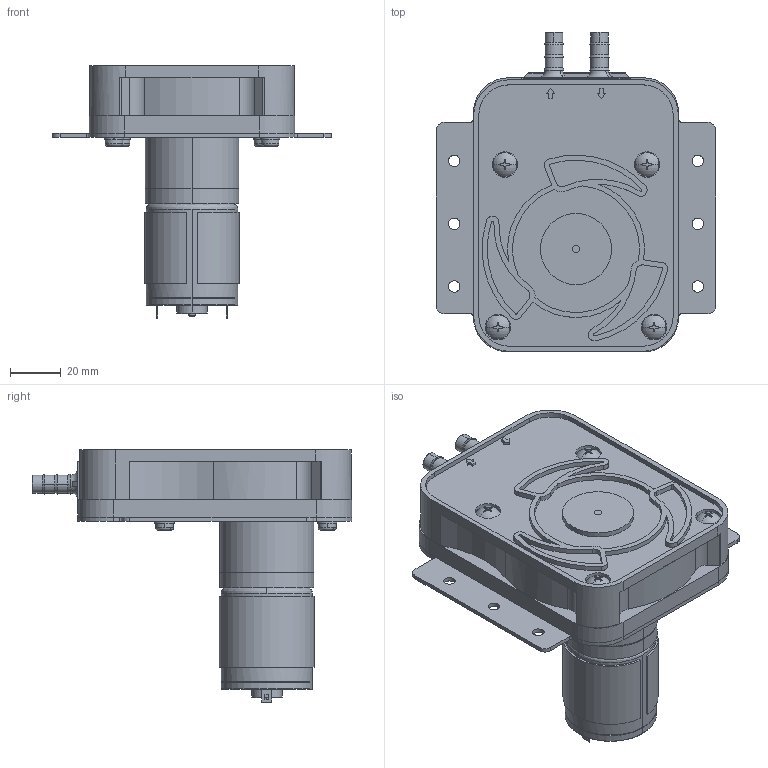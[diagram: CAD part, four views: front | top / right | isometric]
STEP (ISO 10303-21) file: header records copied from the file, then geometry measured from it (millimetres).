
FILE_DESCRIPTION (( 'STEP AP214' ), '1' );
FILE_NAME ('RP-S06x-700Z- & RP-S07x-800Z-.STEP', '2021-06-14T01:26:00', ( '' ), ( '' ), 'SwSTEP 2.0', 'SolidWorks 2021', '' );
FILE_SCHEMA (( 'AUTOMOTIVE_DESIGN' ));
Length unit declared in the file: millimetre
Products named in the file (10): RPS06N P1-12; RP-S06x-700Z- & RP-S07x-800Z-; WEB用下ケース; AR-BL29_RP-S_モーター取付板（曲げなし）; WEB用ジョイナー; RPS06N P 1-14; TP-3640C-HM-25-S-24B; RPS06N P 1-13; WEB用上ケース; RPS06N P 2-3
Assembly tree (19 placements, depth 2):
  RP-S06x-700Z- & RP-S07x-800Z-
    RPS06N P1-12  x3
    RPS06N P 2-3  x3
    RPS06N P 1-13  x4
    RPS06N P 1-14  x4
    AR-BL29_RP-S_モーター取付板（曲げなし）
    WEB用下ケース
    WEB用ジョイナー
    WEB用上ケース
    TP-3640C-HM-25-S-24B
Bounding box: 110 x 126 x 99.4 mm (x, y, z)
Volume: 280442.7 mm3; surface area: 95728.9 mm2
Topology: 20 solids, 25 shells, 1150 faces, 2942 edges, 1905 vertices
Faces by surface type: cylinder 525, plane 479, torus 75, cone 61, sphere 8, bspline 2
Entity records: 27135 total; most frequent: CARTESIAN_POINT 5433, DIRECTION 4722, ORIENTED_EDGE 4298, EDGE_CURVE 2151, AXIS2_PLACEMENT_3D 1834, VERTEX_POINT 1395, VECTOR 1054, LINE 1054
